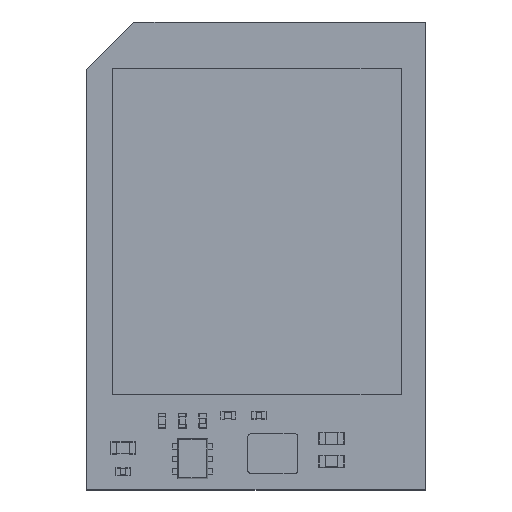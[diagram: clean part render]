
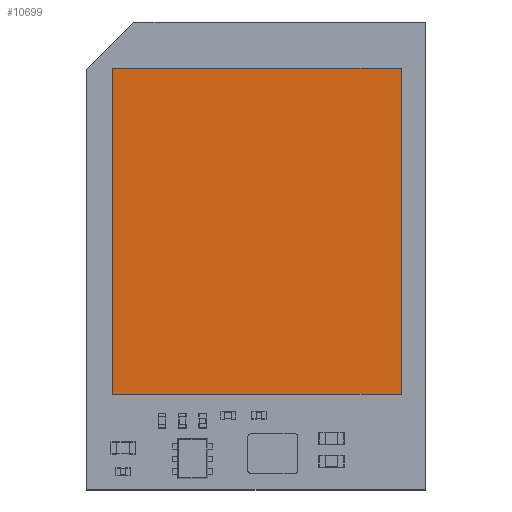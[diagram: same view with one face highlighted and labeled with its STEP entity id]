
A CAD part, top view. The second image highlights one B-rep face of the part: STEP entity #10699.
In plain terms, the highlighted planar face has unit normal (0, 0, 1).
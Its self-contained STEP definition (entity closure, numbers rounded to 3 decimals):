
#10584=DIRECTION('',(1.,0.,0.));
#10585=VECTOR('',#10584,11.5);
#10586=CARTESIAN_POINT('',(-5.75,-6.5,0.7));
#10587=LINE('',#10586,#10585);
#10588=DIRECTION('',(0.,-1.,0.));
#10589=VECTOR('',#10588,13.);
#10590=CARTESIAN_POINT('',(-5.75,6.5,0.7));
#10591=LINE('',#10590,#10589);
#10592=DIRECTION('',(-1.,0.,0.));
#10593=VECTOR('',#10592,11.5);
#10594=CARTESIAN_POINT('',(5.75,6.5,0.7));
#10595=LINE('',#10594,#10593);
#10596=DIRECTION('',(0.,1.,0.));
#10597=VECTOR('',#10596,13.);
#10598=CARTESIAN_POINT('',(5.75,-6.5,0.7));
#10599=LINE('',#10598,#10597);
#10608=CARTESIAN_POINT('',(-5.75,-6.5,0.7));
#10609=CARTESIAN_POINT('',(5.75,-6.5,0.7));
#10610=VERTEX_POINT('',#10608);
#10611=VERTEX_POINT('',#10609);
#10612=CARTESIAN_POINT('',(5.75,6.5,0.7));
#10613=VERTEX_POINT('',#10612);
#10614=CARTESIAN_POINT('',(-5.75,6.5,0.7));
#10615=VERTEX_POINT('',#10614);
#10688=CARTESIAN_POINT('',(0.,0.,0.7));
#10689=DIRECTION('',(0.,0.,1.));
#10690=DIRECTION('',(1.,0.,0.));
#10691=AXIS2_PLACEMENT_3D('',#10688,#10689,#10690);
#10692=PLANE('',#10691);
#10693=ORIENTED_EDGE('',*,*,#10640,.F.);
#10694=ORIENTED_EDGE('',*,*,#10655,.F.);
#10695=ORIENTED_EDGE('',*,*,#10669,.F.);
#10696=ORIENTED_EDGE('',*,*,#10682,.F.);
#10697=EDGE_LOOP('',(#10693,#10694,#10695,#10696));
#10698=FACE_OUTER_BOUND('',#10697,.F.);
#10699=ADVANCED_FACE('',(#10698),#10692,.T.);
#10640=EDGE_CURVE('',#10610,#10611,#10587,.T.);
#10655=EDGE_CURVE('',#10615,#10610,#10591,.T.);
#10669=EDGE_CURVE('',#10613,#10615,#10595,.T.);
#10682=EDGE_CURVE('',#10611,#10613,#10599,.T.);
